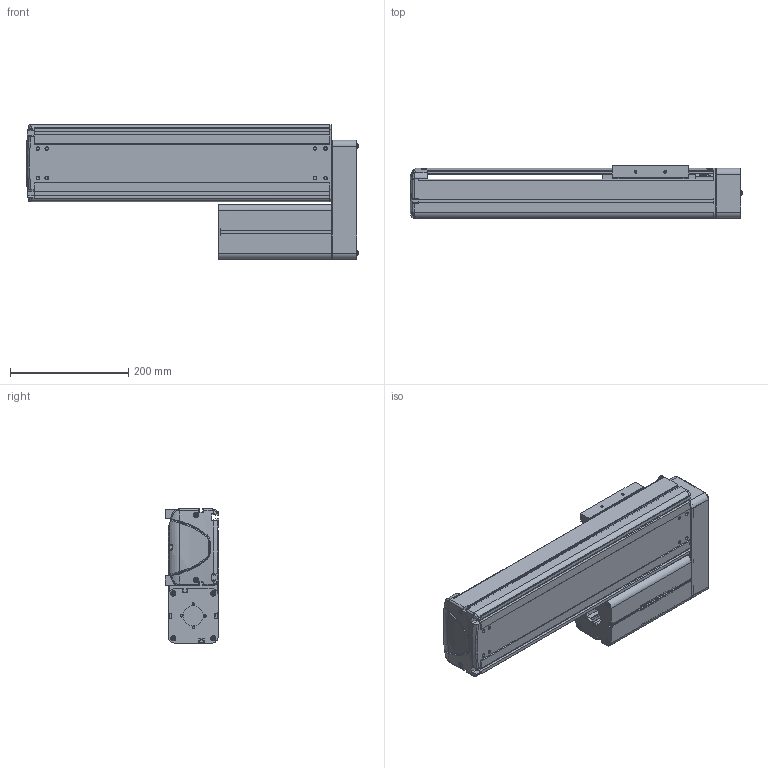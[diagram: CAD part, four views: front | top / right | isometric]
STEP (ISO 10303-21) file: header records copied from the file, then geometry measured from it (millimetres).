
FILE_DESCRIPTION((''),'2;1');
FILE_NAME('BE30E-UL-M_B-30_IGS_PRT','2017-06-17T',(' '),(''),'PRO/ENGINEER BY PARAMETRIC TECHNOLOGY CORPORATION, 2015030','PRO/ENGINEER BY PARAMETRIC TECHNOLOGY CORPORATION, 2015030','');
FILE_SCHEMA(('CONFIG_CONTROL_DESIGN'));
Products named in the file (1): BE30E-UL-M_B-30_IGS_PRT
Bounding box: 561.9 x 89.8 x 227 mm (x, y, z)
Volume: 2223813.4 mm3; surface area: 995039.2 mm2
Topology: 2 solids, 104 shells, 1952 faces, 5223 edges, 3382 vertices
Faces by surface type: plane 985, cylinder 770, cone 103, torus 39, bspline 31, sphere 24
Entity records: 62828 total; most frequent: CARTESIAN_POINT 13269, DIRECTION 10473, ORIENTED_EDGE 9986, EDGE_CURVE 5185, AXIS2_PLACEMENT_3D 3657, VERTEX_POINT 3382, VECTOR 3159, LINE 3159
